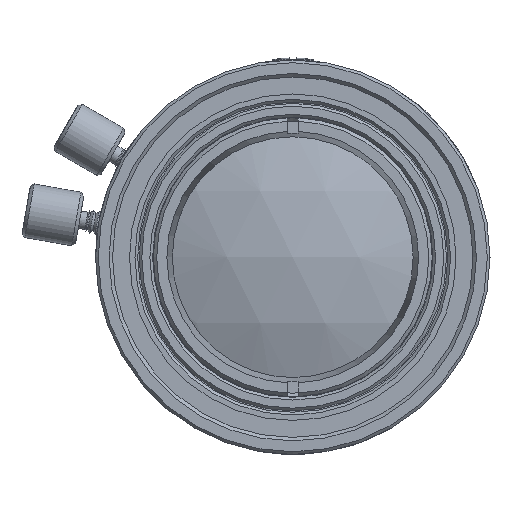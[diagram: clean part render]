
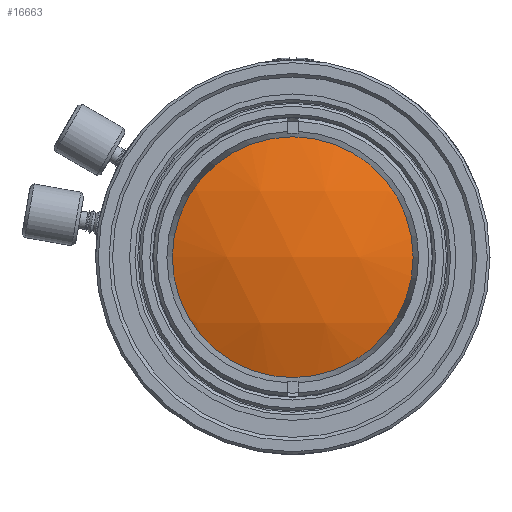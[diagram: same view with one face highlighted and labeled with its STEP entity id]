
A CAD part, left-side view. The second image highlights one B-rep face of the part: STEP entity #16663.
In plain terms, the highlighted spherical face has radius 24.52 mm.
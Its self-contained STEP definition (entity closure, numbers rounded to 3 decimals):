
#228=SPHERICAL_SURFACE('',#19210,24.52);
#4184=ORIENTED_EDGE('',*,*,#6815,.F.);
#6815=EDGE_CURVE('',#8524,#8524,#9985,.T.);
#8524=VERTEX_POINT('',#29455);
#9985=CIRCLE('',#19209,9.5);
#12015=EDGE_LOOP('',(#4184));
#14561=FACE_BOUND('',#12015,.T.);
#16663=ADVANCED_FACE('',(#14561),#228,.T.);
#19209=AXIS2_PLACEMENT_3D('',#29454,#23756,#23757);
#19210=AXIS2_PLACEMENT_3D('',#29456,#23758,#23759);
#23756=DIRECTION('',(1.,0.,0.));
#23757=DIRECTION('',(0.,1.,0.));
#23758=DIRECTION('',(0.,0.,1.));
#23759=DIRECTION('',(1.,0.,0.));
#29454=CARTESIAN_POINT('',(-64.306,0.,0.));
#29455=CARTESIAN_POINT('',(-64.306,9.5,0.));
#29456=CARTESIAN_POINT('',(-41.702,0.,0.));
